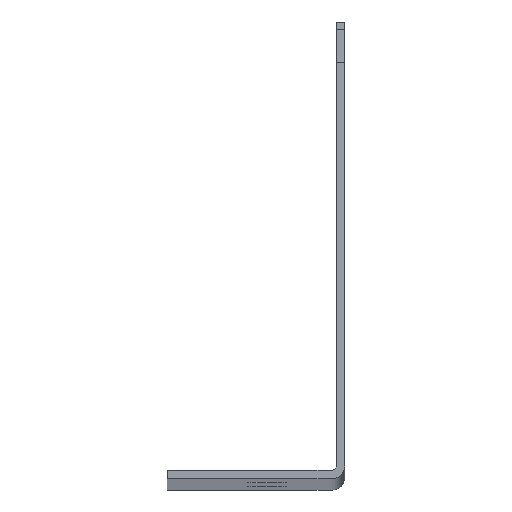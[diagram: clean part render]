
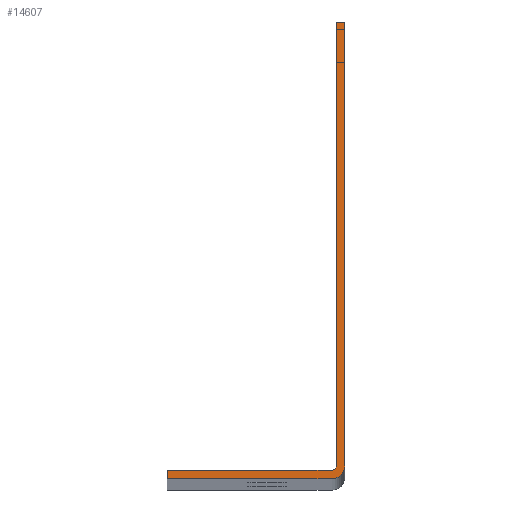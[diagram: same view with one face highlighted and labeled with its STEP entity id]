
A CAD part, top view. The second image highlights one B-rep face of the part: STEP entity #14607.
In plain terms, the highlighted planar face has unit normal (0, 0, 1).
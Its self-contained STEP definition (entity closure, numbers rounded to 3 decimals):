
#203=CIRCLE('',#15380,3.632);
#204=CIRCLE('',#15381,1.219);
#965=ORIENTED_EDGE('',*,*,#5164,.F.);
#966=ORIENTED_EDGE('',*,*,#5165,.F.);
#967=ORIENTED_EDGE('',*,*,#5069,.F.);
#968=ORIENTED_EDGE('',*,*,#5166,.T.);
#969=ORIENTED_EDGE('',*,*,#5167,.T.);
#970=ORIENTED_EDGE('',*,*,#5168,.T.);
#971=ORIENTED_EDGE('',*,*,#5169,.T.);
#972=ORIENTED_EDGE('',*,*,#5170,.T.);
#5069=EDGE_CURVE('',#7173,#7174,#8541,.T.);
#5164=EDGE_CURVE('',#7259,#7260,#8590,.T.);
#5165=EDGE_CURVE('',#7174,#7259,#203,.T.);
#5166=EDGE_CURVE('',#7173,#7261,#8591,.T.);
#5167=EDGE_CURVE('',#7261,#7262,#8592,.T.);
#5168=EDGE_CURVE('',#7262,#7263,#204,.F.);
#5169=EDGE_CURVE('',#7263,#7264,#8593,.T.);
#5170=EDGE_CURVE('',#7264,#7260,#8594,.T.);
#7173=VERTEX_POINT('',#21001);
#7174=VERTEX_POINT('',#21002);
#7259=VERTEX_POINT('',#21254);
#7260=VERTEX_POINT('',#21255);
#7261=VERTEX_POINT('',#21258);
#7262=VERTEX_POINT('',#21260);
#7263=VERTEX_POINT('',#21262);
#7264=VERTEX_POINT('',#21264);
#8541=LINE('',#21000,#10473);
#8590=LINE('',#21253,#10522);
#8591=LINE('',#21257,#10523);
#8592=LINE('',#21259,#10524);
#8593=LINE('',#21263,#10525);
#8594=LINE('',#21265,#10526);
#10473=VECTOR('',#16733,1000.);
#10522=VECTOR('',#16846,1000.);
#10523=VECTOR('',#16849,1000.);
#10524=VECTOR('',#16850,1000.);
#10525=VECTOR('',#16853,1000.);
#10526=VECTOR('',#16854,1000.);
#11999=EDGE_LOOP('',(#965,#966,#967,#968,#969,#970,#971,#972));
#13049=FACE_BOUND('',#11999,.T.);
#13931=PLANE('',#15379);
#14607=ADVANCED_FACE('',(#13049),#13931,.T.);
#15379=AXIS2_PLACEMENT_3D('',#21252,#16844,#16845);
#15380=AXIS2_PLACEMENT_3D('',#21256,#16847,#16848);
#15381=AXIS2_PLACEMENT_3D('',#21261,#16851,#16852);
#16733=DIRECTION('',(0.,-1.,0.));
#16844=DIRECTION('',(0.,0.,1.));
#16845=DIRECTION('',(1.,0.,0.));
#16846=DIRECTION('',(-1.,0.,0.));
#16847=DIRECTION('',(0.,0.,-1.));
#16848=DIRECTION('',(0.,1.,0.));
#16849=DIRECTION('',(-1.,0.,0.));
#16850=DIRECTION('',(0.,-1.,0.));
#16851=DIRECTION('',(0.,0.,1.));
#16852=DIRECTION('',(1.,0.,0.));
#16853=DIRECTION('',(-1.,0.,0.));
#16854=DIRECTION('',(0.,-1.,0.));
#21000=CARTESIAN_POINT('',(25.4,2.171,933.831));
#21001=CARTESIAN_POINT('',(25.4,130.658,933.831));
#21002=CARTESIAN_POINT('',(25.4,3.632,933.831));
#21252=CARTESIAN_POINT('',(25.4,2.413,933.831));
#21253=CARTESIAN_POINT('',(25.4,0.,933.831));
#21254=CARTESIAN_POINT('',(21.768,0.,933.831));
#21255=CARTESIAN_POINT('',(-25.4,0.,933.831));
#21256=CARTESIAN_POINT('',(21.768,3.632,933.831));
#21257=CARTESIAN_POINT('',(25.4,130.658,933.831));
#21258=CARTESIAN_POINT('',(22.987,130.658,933.831));
#21259=CARTESIAN_POINT('',(22.987,2.171,933.831));
#21260=CARTESIAN_POINT('',(22.987,3.632,933.831));
#21261=CARTESIAN_POINT('',(21.768,3.632,933.831));
#21262=CARTESIAN_POINT('',(21.768,2.413,933.831));
#21263=CARTESIAN_POINT('',(25.4,2.413,933.831));
#21264=CARTESIAN_POINT('',(-25.4,2.413,933.831));
#21265=CARTESIAN_POINT('',(-25.4,2.413,933.831));
